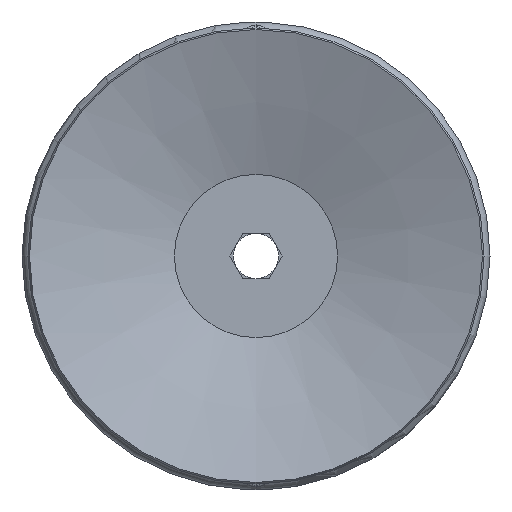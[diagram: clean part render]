
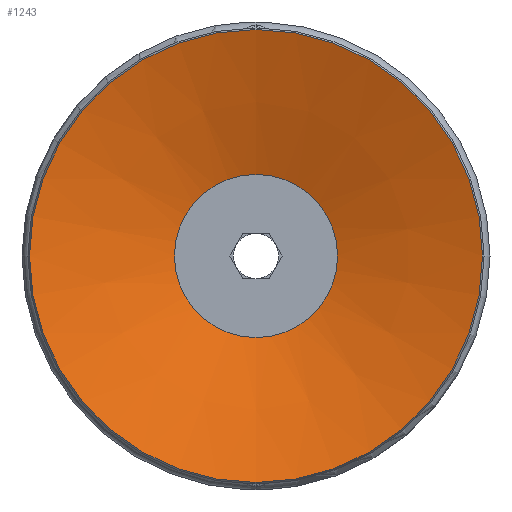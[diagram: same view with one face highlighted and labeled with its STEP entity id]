
A CAD part, front view. The second image highlights one B-rep face of the part: STEP entity #1243.
In plain terms, the highlighted conical face has half-angle 71.075 degrees and reference radius 15 mm.
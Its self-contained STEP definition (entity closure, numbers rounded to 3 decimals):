
#1243=ADVANCED_FACE('',(#3039,#3040),#3041,.F.);
#3039=FACE_BOUND('',#5450,.T.);
#3040=FACE_OUTER_BOUND('',#5451,.T.);
#3041=CONICAL_SURFACE('',#5452,15.0,1.24);
#5450=EDGE_LOOP('',(#9019));
#5451=EDGE_LOOP('',(#9020));
#5452=AXIS2_PLACEMENT_3D('',#9021,#9022,#9023);
#9019=ORIENTED_EDGE('',*,*,#15760,.T.);
#9020=ORIENTED_EDGE('',*,*,#15761,.T.);
#9021=CARTESIAN_POINT('',(0.,0.,0.0));
#9022=DIRECTION('',(0.0,0.,-1.0));
#9023=DIRECTION('',(0.0,1.0,0.));
#15760=EDGE_CURVE('',#19441,#19441,#19442,.T.);
#15761=EDGE_CURVE('',#19443,#19443,#19444,.T.);
#19441=VERTEX_POINT('',#25714);
#19442=CIRCLE('',#25715,5.4);
#19443=VERTEX_POINT('',#25716);
#19444=CIRCLE('',#25717,15.0);
#25714=CARTESIAN_POINT('',(-5.4,0.,3.291));
#25715=AXIS2_PLACEMENT_3D('',#31122,#31123,#31124);
#25716=CARTESIAN_POINT('',(0.,15.0,0.));
#25717=AXIS2_PLACEMENT_3D('',#31125,#31126,#31127);
#31122=CARTESIAN_POINT('',(0.,0.,3.291));
#31123=DIRECTION('',(0.,0.0,1.0));
#31124=DIRECTION('',(-1.0,0.0,0.));
#31125=CARTESIAN_POINT('',(0.,0.,0.0));
#31126=DIRECTION('',(0.0,0.,-1.0));
#31127=DIRECTION('',(0.0,1.0,0.));
